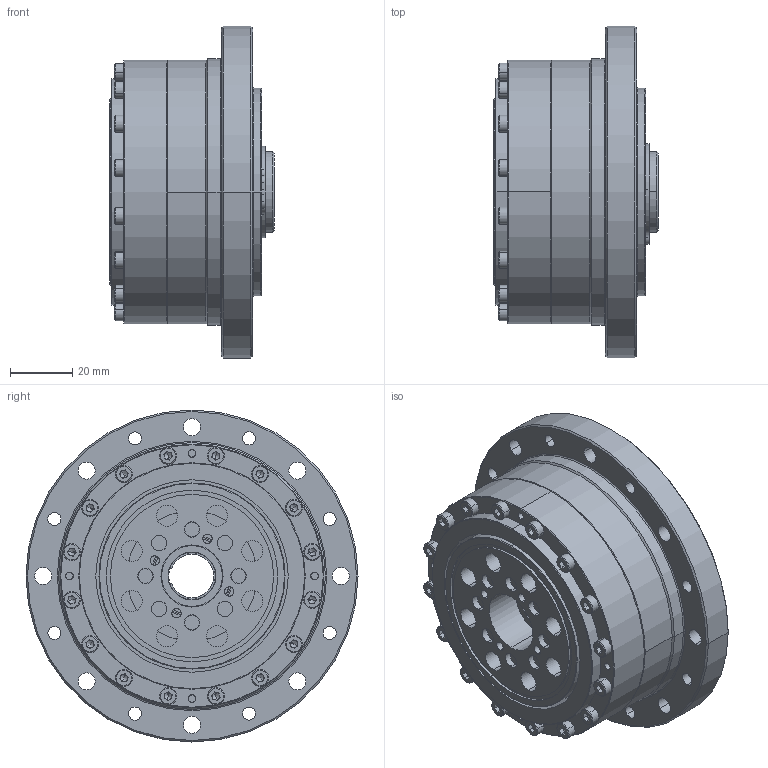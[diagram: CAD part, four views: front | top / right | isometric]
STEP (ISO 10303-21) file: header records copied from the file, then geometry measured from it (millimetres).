
FILE_DESCRIPTION (( 'STEP AP203' ), '1' );
FILE_NAME ('BCS-25-XXX-U-¢ò.STEP', '2019-01-15T03:21:08', ( 'User' ), ( 'China' ), 'SwSTEP 2.0', 'SolidWorks 2015', '' );
FILE_SCHEMA (( 'CONFIG_CONTROL_DESIGN' ));
Length unit declared in the file: millimetre
Products named in the file (1): BCS-25-XXX-U-ｊ
Bounding box: 53 x 107 x 107 mm (x, y, z)
Surface area: 63611 mm2 (no closed solid volume)
Topology: 0 solids, 57 shells, 515 faces, 1573 edges, 1028 vertices
Faces by surface type: plane 185, cylinder 166, cone 108, sphere 40, torus 14, bspline 2
Entity records: 16863 total; most frequent: DIRECTION 3208, CARTESIAN_POINT 2963, ORIENTED_EDGE 2406, EDGE_CURVE 1441, AXIS2_PLACEMENT_3D 1261, VERTEX_POINT 968, CIRCLE 747, VECTOR 686
